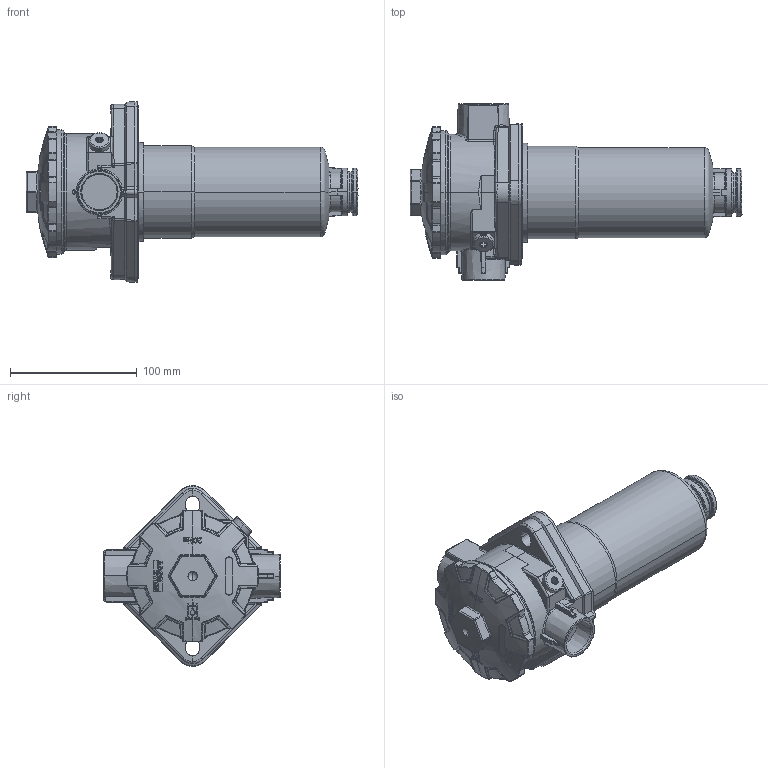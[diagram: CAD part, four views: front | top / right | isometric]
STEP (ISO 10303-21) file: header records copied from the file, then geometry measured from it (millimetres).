
FILE_DESCRIPTION((''),'2;1');
FILE_NAME('E_103-676_SECHSKANT','2024-08-30T10:03:40',('a.heinl'),(''),'CREO PARAMETRIC BY PTC INC, 2023254','CREO PARAMETRIC BY PTC INC, 2023254','');
FILE_SCHEMA(('AUTOMOTIVE_DESIGN { 1 0 10303 214 1 1 1 1 }'));
Length unit declared in the file: millimetre
Products named in the file (1): E_103-676_SECHSKANT
Bounding box: 262.05 x 139 x 142.55 mm (x, y, z)
Volume: 1223401.7 mm3; surface area: 112346.9 mm2
Topology: 1 solids, 3 shells, 1359 faces, 3514 edges, 2170 vertices
Faces by surface type: plane 510, bspline 299, cylinder 264, torus 111, cone 105, sphere 55, extrusion 15
Entity records: 79273 total; most frequent: CARTESIAN_POINT 25510, ORIENTED_EDGE 6966, DIRECTION 5736, PRESENTATION_STYLE_ASSIGNMENT 4856, STYLED_ITEM 3499, CURVE_STYLE 3498, EDGE_CURVE 3483, AXIS2_PLACEMENT_3D 2311
